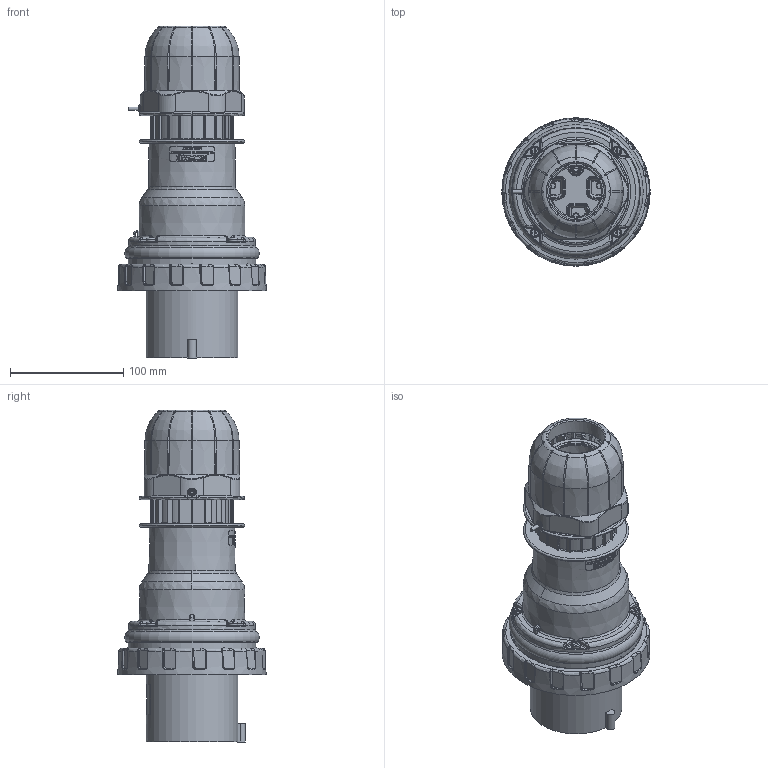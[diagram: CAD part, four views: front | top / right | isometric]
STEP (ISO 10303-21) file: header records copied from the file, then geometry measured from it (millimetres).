
FILE_DESCRIPTION(/* description */ (''),/* implementation_level */ '2;1');
FILE_NAME(/* name */ '4001199.stp',/* time_stamp */ '2020-07-15T08:01:49+02:00',/* author */ (''),/* organization */ (''),/* preprocessor_version */ 'ST-DEVELOPER v16.7',/* originating_system */ 'SIEMENS PLM Software NX 1926',/* authorisation */ '');
FILE_SCHEMA (('AUTOMOTIVE_DESIGN { 1 0 10303 214 3 1 1 1 }'));
Length unit declared in the file: millimetre
Products named in the file (1): RGGM24A4BD93hycv
Bounding box: 131 x 131 x 293 mm (x, y, z)
Volume: 525128.7 mm3; surface area: 419969.2 mm2
Topology: 27 solids, 28 shells, 5086 faces, 13612 edges, 8712 vertices
Faces by surface type: plane 2348, cylinder 960, bspline 866, cone 380, torus 317, extrusion 166, revolution 30, sphere 19
Full cylindrical faces by diameter (mm): 1 x1, 2.2 x1, 2.4 x1, 3 x1, 3.4 x12, 3.5 x2, 3.7 x4, 4.2 x4, 4.3 x8, 4.5 x6, 5 x4, 5.5 x3, 5.6 x3, 5.7 x1, 6 x1, 6.3 x20, 6.5 x4, 7.9 x4, 8 x5, 8.5 x9, 10 x2, 12 x1, 50 x1, 66.5 x1, 70 x1, 71.8 x1, 73.1 x1, 79 x1, 81 x1, 87.25 x1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
Entity records: 212025 total; most frequent: CARTESIAN_POINT 94453, ORIENTED_EDGE 26416, DIRECTION 21047, EDGE_CURVE 13208, VERTEX_POINT 8631, AXIS2_PLACEMENT_3D 7496, VECTOR 6025, LINE 5859
